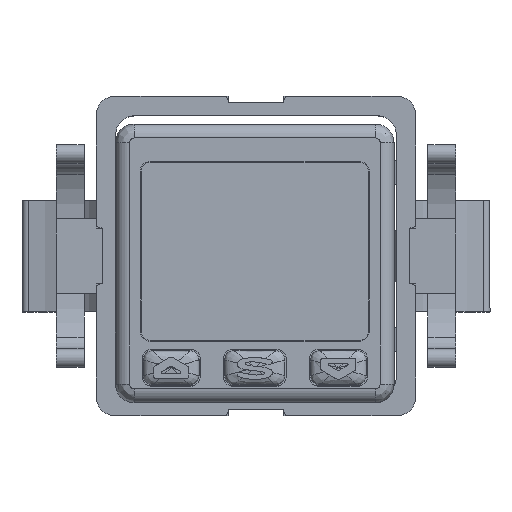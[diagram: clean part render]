
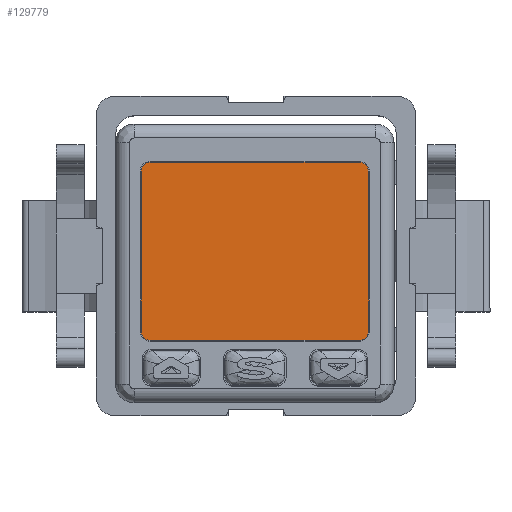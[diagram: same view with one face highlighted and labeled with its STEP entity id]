
A CAD part, top view. The second image highlights one B-rep face of the part: STEP entity #129779.
In plain terms, the highlighted planar face has unit normal (0, 0, 1).
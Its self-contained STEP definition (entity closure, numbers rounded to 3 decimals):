
#45794=DIRECTION('',(0.,1.,0.));
#45795=VECTOR('',#45794,17.2);
#45796=CARTESIAN_POINT('',(-12.33,-7.3,21.1));
#45797=LINE('',#45796,#45795);
#45798=CARTESIAN_POINT('',(-11.25,9.9,21.1));
#45799=DIRECTION('',(0.,0.,-1.));
#45800=DIRECTION('',(-1.,0.,0.));
#45801=AXIS2_PLACEMENT_3D('',#45798,#45799,#45800);
#45803=DIRECTION('',(1.,0.,0.));
#45804=VECTOR('',#45803,22.5);
#45805=CARTESIAN_POINT('',(-11.25,10.98,21.1));
#45806=LINE('',#45805,#45804);
#45807=CARTESIAN_POINT('',(11.25,9.9,21.1));
#45808=DIRECTION('',(0.,0.,-1.));
#45809=DIRECTION('',(0.,1.,0.));
#45810=AXIS2_PLACEMENT_3D('',#45807,#45808,#45809);
#45812=DIRECTION('',(0.,1.,0.));
#45813=VECTOR('',#45812,17.2);
#45814=CARTESIAN_POINT('',(12.33,-7.3,21.1));
#45815=LINE('',#45814,#45813);
#45816=CARTESIAN_POINT('',(11.25,-7.3,21.1));
#45817=DIRECTION('',(0.,0.,-1.));
#45818=DIRECTION('',(1.,0.,0.));
#45819=AXIS2_PLACEMENT_3D('',#45816,#45817,#45818);
#45821=DIRECTION('',(1.,0.,0.));
#45822=VECTOR('',#45821,22.5);
#45823=CARTESIAN_POINT('',(-11.25,-8.38,21.1));
#45824=LINE('',#45823,#45822);
#45825=CARTESIAN_POINT('',(-11.25,-7.3,21.1));
#45826=DIRECTION('',(0.,0.,-1.));
#45827=DIRECTION('',(0.,-1.,0.));
#45828=AXIS2_PLACEMENT_3D('',#45825,#45826,#45827);
#55980=CARTESIAN_POINT('',(-12.33,-7.3,21.1));
#55981=CARTESIAN_POINT('',(-12.33,9.9,21.1));
#55982=VERTEX_POINT('',#55980);
#55983=VERTEX_POINT('',#55981);
#55984=CARTESIAN_POINT('',(-11.25,10.98,21.1));
#55985=CARTESIAN_POINT('',(11.25,10.98,21.1));
#55986=VERTEX_POINT('',#55984);
#55987=VERTEX_POINT('',#55985);
#55988=CARTESIAN_POINT('',(12.33,9.9,21.1));
#55989=VERTEX_POINT('',#55988);
#55990=CARTESIAN_POINT('',(-11.25,-8.38,21.1));
#55991=CARTESIAN_POINT('',(11.25,-8.38,21.1));
#55992=VERTEX_POINT('',#55990);
#55993=VERTEX_POINT('',#55991);
#55994=CARTESIAN_POINT('',(12.33,-7.3,21.1));
#55995=VERTEX_POINT('',#55994);
#129757=CARTESIAN_POINT('',(0.,2.5,21.1));
#129758=DIRECTION('',(0.,0.,1.));
#129759=DIRECTION('',(1.,0.,0.));
#129760=AXIS2_PLACEMENT_3D('',#129757,#129758,#129759);
#129761=PLANE('',#129760);
#129762=ORIENTED_EDGE('',*,*,#129747,.T.);
#129764=ORIENTED_EDGE('',*,*,#129763,.T.);
#129766=ORIENTED_EDGE('',*,*,#129765,.T.);
#129768=ORIENTED_EDGE('',*,*,#129767,.T.);
#129770=ORIENTED_EDGE('',*,*,#129769,.F.);
#129772=ORIENTED_EDGE('',*,*,#129771,.T.);
#129774=ORIENTED_EDGE('',*,*,#129773,.F.);
#129776=ORIENTED_EDGE('',*,*,#129775,.T.);
#129777=EDGE_LOOP('',(#129762,#129764,#129766,#129768,#129770,#129772,#129774,
#129776));
#129778=FACE_OUTER_BOUND('',#129777,.F.);
#129779=ADVANCED_FACE('',(#129778),#129761,.T.);
#45802=CIRCLE('',#45801,1.08);
#45811=CIRCLE('',#45810,1.08);
#45820=CIRCLE('',#45819,1.08);
#45829=CIRCLE('',#45828,1.08);
#129747=EDGE_CURVE('',#55982,#55983,#45797,.T.);
#129763=EDGE_CURVE('',#55983,#55986,#45802,.T.);
#129765=EDGE_CURVE('',#55986,#55987,#45806,.T.);
#129767=EDGE_CURVE('',#55987,#55989,#45811,.T.);
#129769=EDGE_CURVE('',#55995,#55989,#45815,.T.);
#129771=EDGE_CURVE('',#55995,#55993,#45820,.T.);
#129773=EDGE_CURVE('',#55992,#55993,#45824,.T.);
#129775=EDGE_CURVE('',#55992,#55982,#45829,.T.);
